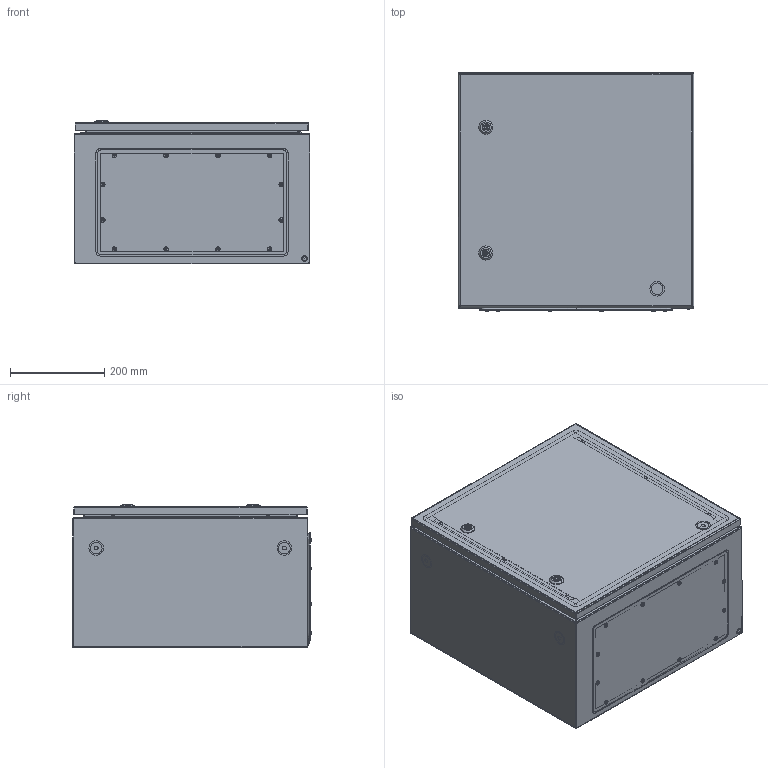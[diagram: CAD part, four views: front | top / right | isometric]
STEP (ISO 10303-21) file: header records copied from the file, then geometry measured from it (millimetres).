
FILE_DESCRIPTION (( 'STEP AP214' ), '1' );
FILE_NAME ('CCS 50.50.30 仃圄 觐祜嚓蝽.STEP', '2025-09-09T19:40:58', ( '' ), ( '' ), 'SwSTEP 2.0', 'SolidWorks 2019', '' );
FILE_SCHEMA (( 'AUTOMOTIVE_DESIGN' ));
Length unit declared in the file: millimetre
Products named in the file (30): KIT_Çàæèìíîå êîëüöî_ïîëèîêñèìåòèëåí_ô5_EMKA 1031-U16; Çàìîê LC 5DB.S_‡ ¬®ª LC 5DB.S_45mm; Âèíò ðåçüáîâûäàâëèâàþùèé ñ ïîëóïîòàéíîé ãîëîâêîé Ì5õ12; CCS X.Y.02.000蚜 拟屦黖CCS 50.50; Essentra_d9.3_055009300003; pan head cross recess screw_din_DIN EN ISO 7045 - M5 x 6 - Z - 6N; Ïåòëÿ ïðèâàðíàÿ ÷àñòü; Ïåòëÿ KIT_Ìîäóëü_êîðïóñíàÿ ÷àñòü; MPC X.Y Ïàíåëü ìîíòàæíàÿ_MPC 50.50; Øïèëüêà Ì8õ25; Ïåòëÿ KIT_Ìîäóëü_êîðïóñíàÿ ÷àñòü â ñáîðå; CCS 50.50.30 仃圄 觐祜嚓蝽; CCS X.Y.02.001 拟屦黖CCS 50.50; Ãàéêà Ì8 DIN 934; ﾇ瑟鶴 LC 5DB.S; CCS Y.Z.01.003 Êîðïóñ_ïàíåëü íèæíÿÿ_CCS 50.30; Øïèëüêà çàçåìëåíèÿ Ì6õ17,5_˜¯¨«ìª  § §¥¬«¥­¨ï Œ6å17,5; plain washer grade a_din_Washer DIN 125 - A 5.3; CCS X.Y.30(40).01.001 Êîðïóñ_ïàíåëü ñðåäíÿÿ_CCS 50.50.30; CCS Y.Z.01.002 Êîðïóñ_ïàíåëü âåðõíÿÿ_CCS 50.30; PKV Y.22 相礤朦 赅徨朦眍泐 忖钿郷PKV 50.22; KIT_Øòèôò_ô5_Ìîäóëü; CCS X.002 扰鍙欙樥燲CCS 50.002; hex flange nut_din_Hexagon Flange Nut DIN 6923 - M8 - N; CCS X.Y.30(40).01.000ÑÁ Êîðïóñ øêàôà ñâàðíîé_CCS 50.50.30; ßçû÷îê çàìêà LC 5DB.S; Øïèëüêà çàçåìëåíèÿ Ì6õ17,5_˜¯¨«ìª  § §¥¬«¥­¨ï Œ6å17,5 á ª®«¯ çª®¬; Essentra_d6,3_1287228
Assembly tree (62 placements, depth 3):
  CCS 50.50.30 仃圄 觐祜嚓蝽
    CCS X.Y.30(40).01.000ÑÁ Êîðïóñ øêàôà ñâàðíîé_CCS 50.50.30
      CCS X.Y.30(40).01.001 Êîðïóñ_ïàíåëü ñðåäíÿÿ_CCS 50.50.30
      CCS Y.Z.01.003 Êîðïóñ_ïàíåëü íèæíÿÿ_CCS 50.30
      CCS Y.Z.01.002 Êîðïóñ_ïàíåëü âåðõíÿÿ_CCS 50.30
      Øïèëüêà çàçåìëåíèÿ Ì6õ17,5_˜¯¨«ìª  § §¥¬«¥­¨ï Œ6å17,5  x4
      Øïèëüêà Ì8õ25  x4
    Ïåòëÿ KIT_Ìîäóëü_êîðïóñíàÿ ÷àñòü â ñáîðå
      Ïåòëÿ KIT_Ìîäóëü_êîðïóñíàÿ ÷àñòü
      KIT_Øòèôò_ô5_Ìîäóëü
      KIT_Çàæèìíîå êîëüöî_ïîëèîêñèìåòèëåí_ô5_EMKA 1031-U16
    Ïåòëÿ KIT_Ìîäóëü_êîðïóñíàÿ ÷àñòü â ñáîðå
      Ïåòëÿ KIT_Ìîäóëü_êîðïóñíàÿ ÷àñòü
      KIT_Øòèôò_ô5_Ìîäóëü
      KIT_Çàæèìíîå êîëüöî_ïîëèîêñèìåòèëåí_ô5_EMKA 1031-U16
    CCS X.Y.02.000蚜 拟屦黖CCS 50.50
      CCS X.Y.02.001 拟屦黖CCS 50.50
      Øïèëüêà çàçåìëåíèÿ Ì6õ17,5_˜¯¨«ìª  § §¥¬«¥­¨ï Œ6å17,5 á ª®«¯ çª®¬
      CCS X.002 扰鍙欙樥燲CCS 50.002  x2
      Ïåòëÿ ïðèâàðíàÿ ÷àñòü  x2
    MPC X.Y Ïàíåëü ìîíòàæíàÿ_MPC 50.50
    pan head cross recess screw_din_DIN EN ISO 7045 - M5 x 6 - Z - 6N  x2
    plain washer grade a_din_Washer DIN 125 - A 5.3  x2
    Ãàéêà Ì8 DIN 934  x4
    hex flange nut_din_Hexagon Flange Nut DIN 6923 - M8 - N  x4
    Essentra_d9.3_055009300003
    Essentra_d6,3_1287228  x2
    Çàìîê LC 5DB.S_‡ ¬®ª LC 5DB.S_45mm
      ﾇ瑟鶴 LC 5DB.S
      ßçû÷îê çàìêà LC 5DB.S
    Çàìîê LC 5DB.S_‡ ¬®ª LC 5DB.S_45mm
      ﾇ瑟鶴 LC 5DB.S
      ßçû÷îê çàìêà LC 5DB.S
    PKV Y.22 相礤朦 赅徨朦眍泐 忖钿郷PKV 50.22
    Âèíò ðåçüáîâûäàâëèâàþùèé ñ ïîëóïîòàéíîé ãîëîâêîé Ì5õ12  x12
Bounding box: 500 x 507.22 x 305 mm (x, y, z)
Volume: 2288924.9 mm3; surface area: 3010842.9 mm2
Topology: 61 solids, 61 shells, 2639 faces, 6603 edges, 4110 vertices
Faces by surface type: plane 1048, cylinder 970, cone 298, bspline 158, torus 124, sphere 41
Entity records: 55413 total; most frequent: CARTESIAN_POINT 22789, ORIENTED_EDGE 6486, DIRECTION 6383, EDGE_CURVE 3243, AXIS2_PLACEMENT_3D 2376, VERTEX_POINT 2025, VECTOR 1631, LINE 1631
